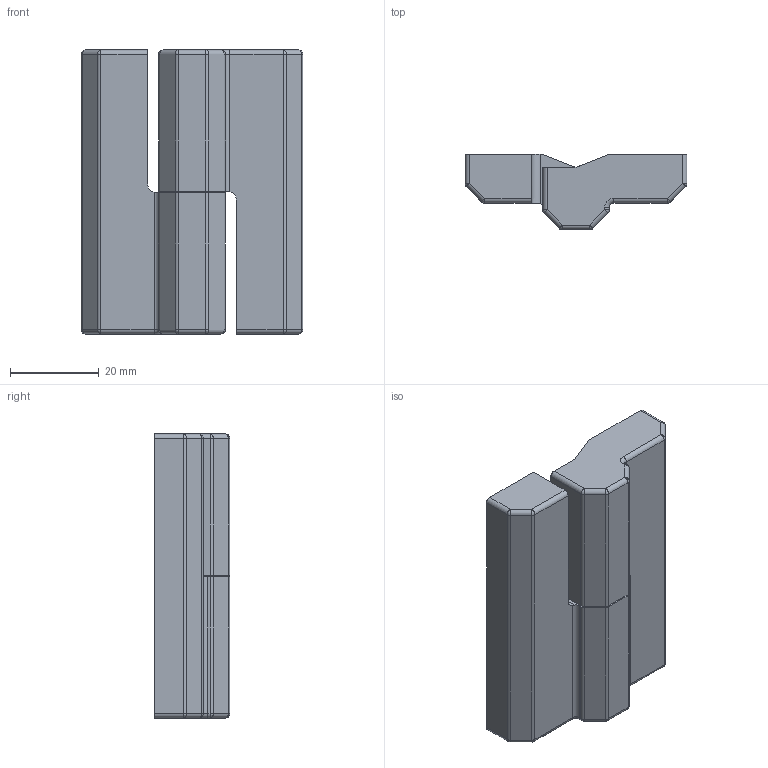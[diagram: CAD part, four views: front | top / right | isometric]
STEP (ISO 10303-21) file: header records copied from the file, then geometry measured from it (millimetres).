
FILE_DESCRIPTION((''),'2;1');
FILE_NAME('HF59.stp','2015-07-17T11:54:45',(''),(''),'Mechanical Desktop 2006','Mechanical Desktop 2006',', , ');
FILE_SCHEMA(('CONFIG_CONTROL_DESIGN'));
Length unit declared in the file: millimetre
Products named in the file (6): 3059-210; 1056-U00062-0000000_00713261_ASM; 1056-000048-0000000_00713262_ASM; 1056-000048-0000000_00713263; 1056-07-04; 1624
Assembly tree (6 placements, depth 4):
  3059-210
    1056-U00062-0000000_00713261_ASM
      1056-000048-0000000_00713262_ASM  x2
        1056-000048-0000000_00713263
      1056-07-04
      1624
Bounding box: 50 x 17 x 64 mm (x, y, z)
Volume: 25110 mm3; surface area: 15898.6 mm2
Topology: 4 solids, 4 shells, 612 faces, 1404 edges, 790 vertices
Faces by surface type: plane 352, cylinder 178, cone 48, sphere 16, torus 14, bspline 4
Entity records: 13906 total; most frequent: DIRECTION 2539, CARTESIAN_POINT 2524, ORIENTED_EDGE 2230, EDGE_CURVE 1115, AXIS2_PLACEMENT_3D 940, VECTOR 659, LINE 659, VERTEX_POINT 627
